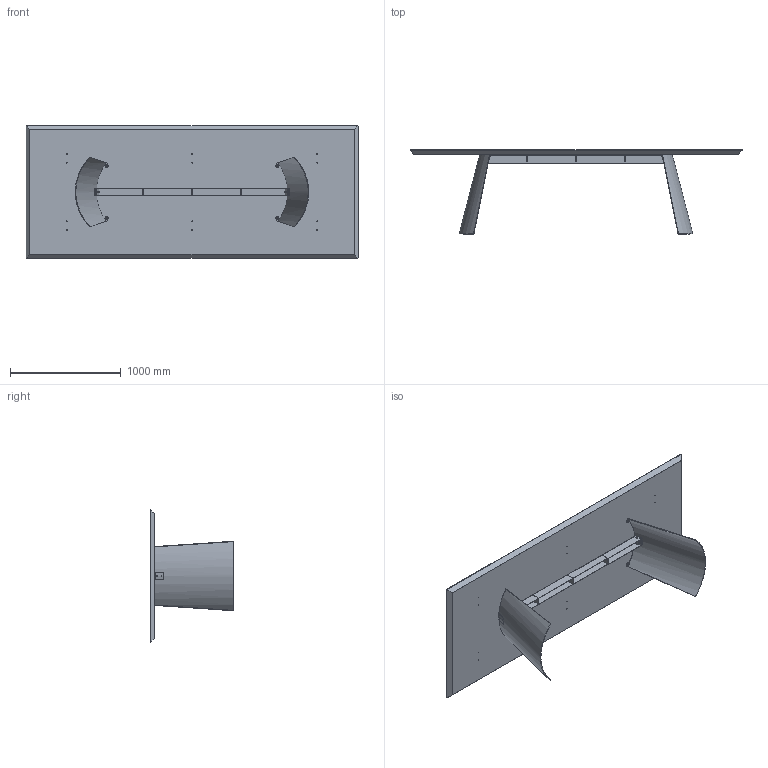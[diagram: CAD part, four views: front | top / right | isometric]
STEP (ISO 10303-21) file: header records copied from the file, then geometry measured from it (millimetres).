
FILE_DESCRIPTION (( 'STEP AP203' ), '1' );
FILE_NAME ('DN24W.STEP', '2024-08-07T15:12:14', ( '' ), ( '' ), 'SwSTEP 2.0', 'SolidWorks 2022', '' );
FILE_SCHEMA (( 'CONFIG_CONTROL_DESIGN' ));
Length unit declared in the file: millimetre
Products named in the file (15): 434070-00-PIEDINO TPV GOMMA NERO D. 30x8max18; SDNB300000-02-GAMBA X TRASP; DNB300000_01-02-GAMBA DORIAN; feltro Ø12x3; nut_M8_M8; DNB400000-02-ASSIEME STRUTTURA COMPLETA_L.1770; DNB300000_03-02-PIASTRINA; DNB300000_02-02-RISCONTRO STANGONE CENTRALE; rondella M8X24; DN24W; GRANO M8X35_barra; W2XCMXX-00-Piani Rettangolari in legno_3000 x 1200; DNBX00000-01-DORIAN TRAVERSO LXXXX PER TAVOLO LX00_L.1770; M8xXXmm_M8x20mm; rondella M8_8X16
Assembly tree (35 placements, depth 4):
  DN24W
    W2XCMXX-00-Piani Rettangolari in legno_3000 x 1200
    DNB400000-02-ASSIEME STRUTTURA COMPLETA_L.1770
      SDNB300000-02-GAMBA X TRASP  x2
        DNB300000_01-02-GAMBA DORIAN
        DNB300000_02-02-RISCONTRO STANGONE CENTRALE
        DNB300000_03-02-PIASTRINA
      DNBX00000-01-DORIAN TRAVERSO LXXXX PER TAVOLO LX00_L.1770
    434070-00-PIEDINO TPV GOMMA NERO D. 30x8max18  x2
    GRANO M8X35_barra  x4
    rondella M8_8X16  x4
    nut_M8_M8  x4
    M8xXXmm_M8x20mm  x4
    rondella M8X24  x4
    feltro Ø12x3  x4
Bounding box: 3000 x 758 x 1200 mm (x, y, z)
Volume: 137803149.2 mm3; surface area: 10137478.1 mm2
Topology: 43 solids, 43 shells, 738 faces, 1726 edges, 1051 vertices
Faces by surface type: plane 286, cylinder 216, cone 130, torus 88, bspline 18
Entity records: 14417 total; most frequent: CARTESIAN_POINT 2808, DIRECTION 2036, ORIENTED_EDGE 1904, EDGE_CURVE 952, AXIS2_PLACEMENT_3D 745, VERTEX_POINT 611, LINE 546, VECTOR 546
